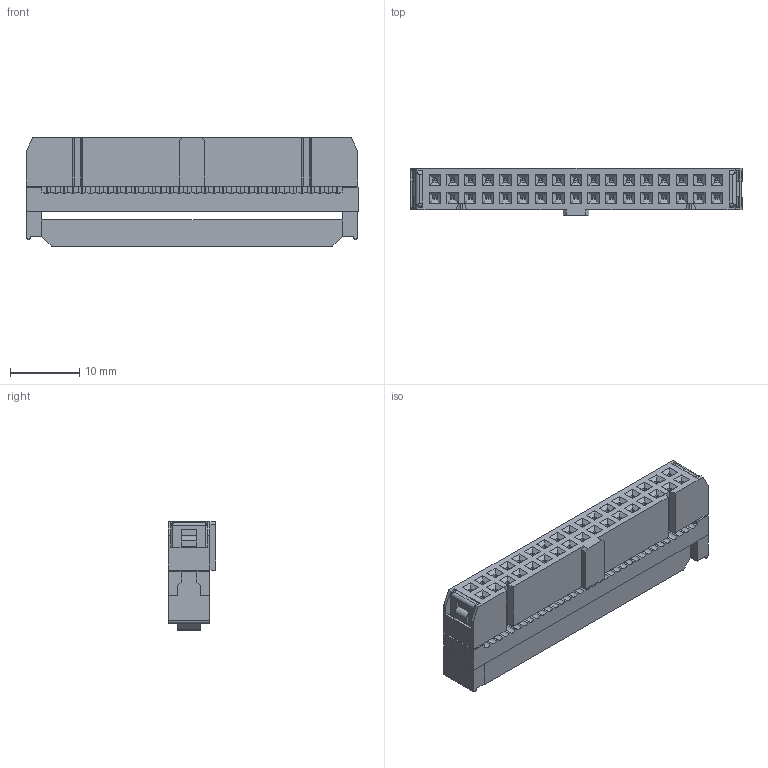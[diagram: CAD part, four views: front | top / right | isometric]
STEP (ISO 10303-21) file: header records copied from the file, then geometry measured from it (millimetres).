
FILE_DESCRIPTION(('FreeCAD Model'),'2;1');
FILE_NAME('C:/Users/Metaltex-99/Desktop/L-34.stp','2020-12-09T08:30:25', ('Engenharia Metaltex'),('Metaltex'),'Open CASCADE STEP processor 7.3' ,'FreeCAD','Unknown');
FILE_SCHEMA(('AUTOMOTIVE_DESIGN { 1 0 10303 214 1 1 1 1 }'));
Length unit declared in the file: millimetre
Products named in the file (4): L-34; 2; 3; 1
Assembly tree (3 placements, depth 2):
  L-34
    2
    3
    1
Bounding box: 47.86 x 6.86 x 15.7 mm (x, y, z)
Volume: 1496.4 mm3; surface area: 5977.2 mm2
Topology: 2 solids, 37 shells, 1996 faces, 5487 edges, 3558 vertices
Faces by surface type: plane 1523, cylinder 450, extrusion 11, bspline 4, sphere 4, torus 4
Entity records: 136070 total; most frequent: CARTESIAN_POINT 24784, DIRECTION 20933, VECTOR 14323, LINE 14312, ORIENTED_EDGE 10966, PCURVE 10966, DEFINITIONAL_REPRESENTATION 10966, EDGE_CURVE 5483
